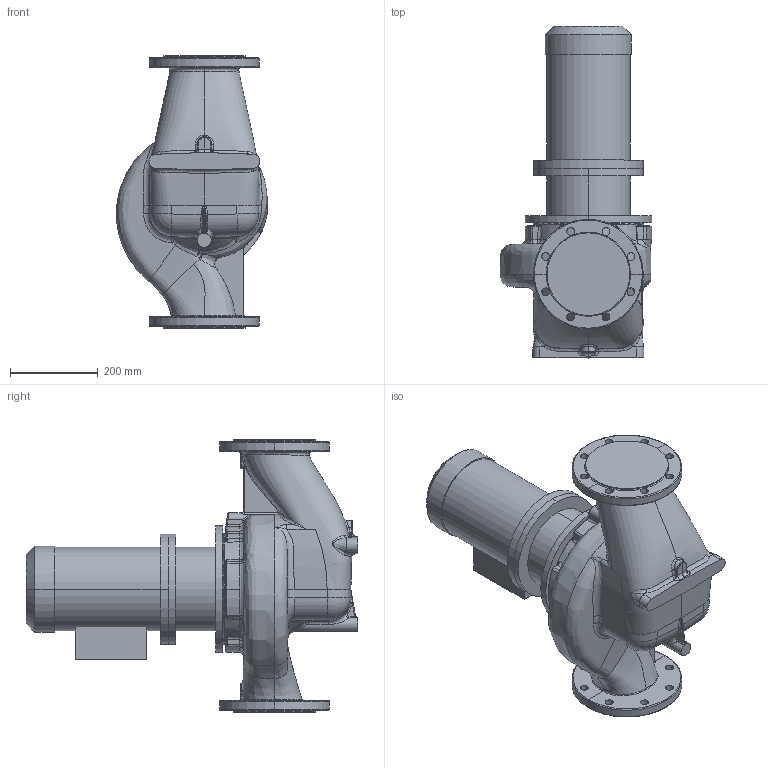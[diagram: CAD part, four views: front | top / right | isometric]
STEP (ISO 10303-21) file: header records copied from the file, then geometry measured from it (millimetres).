
FILE_DESCRIPTION (( 'STEP AP203' ), '1' );
FILE_NAME ('KRL 125-160-4-4.STEP', '2026-04-03T11:53:29', ( '' ), ( '' ), 'SwSTEP 2.0', 'SolidWorks 2016', '' );
FILE_SCHEMA (( 'CONFIG_CONTROL_DESIGN' ));
Length unit declared in the file: millimetre
Products named in the file (1): KRL 125-160-4-4
Bounding box: 344.27 x 755.3 x 620 mm (x, y, z)
Volume: 43133012.1 mm3; surface area: 1484993.4 mm2
Topology: 4 solids, 4 shells, 621 faces, 1533 edges, 923 vertices
Faces by surface type: bspline 289, cylinder 158, plane 89, torus 41, cone 32, sphere 12
Entity records: 61531 total; most frequent: CARTESIAN_POINT 49341, ORIENTED_EDGE 3038, DIRECTION 1831, EDGE_CURVE 1519, VERTEX_POINT 923, AXIS2_PLACEMENT_3D 783, B_SPLINE_CURVE_WITH_KNOTS 717, EDGE_LOOP 670
